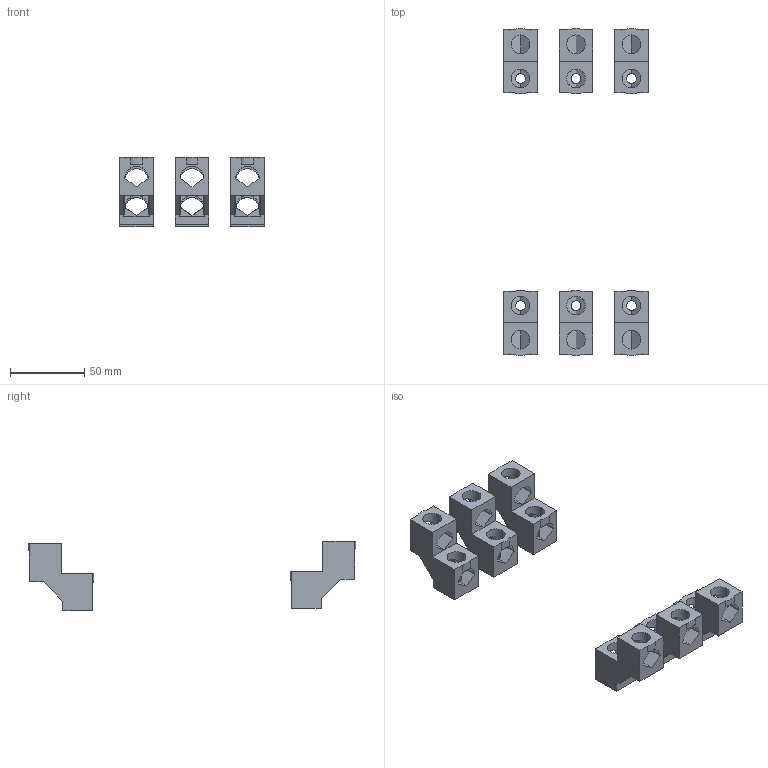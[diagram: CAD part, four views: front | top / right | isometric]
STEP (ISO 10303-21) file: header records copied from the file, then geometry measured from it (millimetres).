
FILE_DESCRIPTION (( 'STEP AP214' ), '1' );
FILE_NAME ('Êîìïëåêò çàæèìîâ äâóõãíåçäíûõ 2õ95 êâ ìì ÂÀ04-36ÂÀ51-35-ÓÕË3 320 À, 400 À.STEP', '2023-07-24T12:39:15', ( '' ), ( '' ), 'SwSTEP 2.0', 'SolidWorks 2018', '' );
FILE_SCHEMA (( 'AUTOMOTIVE_DESIGN' ));
Length unit declared in the file: millimetre
Products named in the file (1): Êîìïëåêò çàæèìîâ äâóõãíåçäíûõ 2õ95 êâ ìì ÂÀ04-36ÂÀ51-35-ÓÕË3 320 À, 400 À
Bounding box: 97.18 x 220.28 x 46.5 mm (x, y, z)
Volume: 97965 mm3; surface area: 46593.4 mm2
Topology: 6 solids, 6 shells, 216 faces, 636 edges, 414 vertices
Faces by surface type: plane 156, cylinder 60
Entity records: 10799 total; most frequent: CARTESIAN_POINT 2497, ORIENTED_EDGE 1272, DIRECTION 1118, EDGE_CURVE 636, LINE 504, VECTOR 504, VERTEX_POINT 414, AXIS2_PLACEMENT_3D 307
